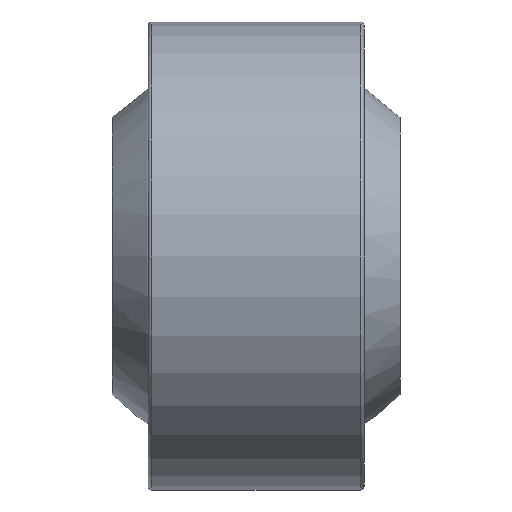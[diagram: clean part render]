
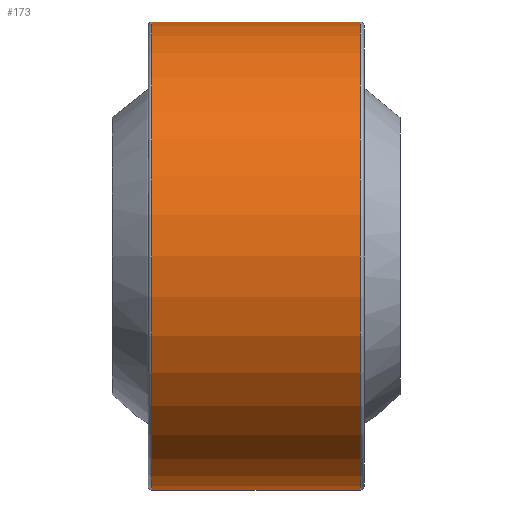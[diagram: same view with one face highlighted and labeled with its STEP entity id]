
A CAD part, front view. The second image highlights one B-rep face of the part: STEP entity #173.
In plain terms, the highlighted cylindrical face has radius 13 mm (diameter 26 mm), a full revolution.
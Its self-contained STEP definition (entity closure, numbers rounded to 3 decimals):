
#173 = ADVANCED_FACE( '', ( #195, #196, #197 ), #198, .T. );
#195 = FACE_OUTER_BOUND( '', #231, .T. );
#196 = FACE_BOUND( '', #232, .T. );
#197 = FACE_OUTER_BOUND( '', #233, .T. );
#198 = CYLINDRICAL_SURFACE( '', #234, 13. );
#231 = EDGE_LOOP( '', ( #274 ) );
#232 = EDGE_LOOP( '', ( #275 ) );
#233 = EDGE_LOOP( '', ( #276 ) );
#234 = AXIS2_PLACEMENT_3D( '', #277, #278, #279 );
#274 = ORIENTED_EDGE( '', *, *, #316, .T. );
#275 = ORIENTED_EDGE( '', *, *, #317, .T. );
#276 = ORIENTED_EDGE( '', *, *, #314, .F. );
#277 = CARTESIAN_POINT( '', ( 6., 0., 0. ) );
#278 = DIRECTION( '', ( -1., 0., 0. ) );
#279 = DIRECTION( '', ( 0., 0., -1. ) );
#314 = EDGE_CURVE( '', #330, #330, #331, .T. );
#316 = EDGE_CURVE( '', #334, #334, #335, .T. );
#317 = EDGE_CURVE( '', #336, #336, #337, .T. );
#330 = VERTEX_POINT( '', #354 );
#331 = CIRCLE( '', #355, 13. );
#334 = VERTEX_POINT( '', #358 );
#335 = CIRCLE( '', #359, 13. );
#336 = VERTEX_POINT( '', #360 );
#337 = B_SPLINE_CURVE_WITH_KNOTS( '', 3, ( #361, #362, #363, #364, #365, #366, #367, #368, #369, #370, #371, #372, #373, #374, #375, #376, #377, #378, #379, #380, #381, #382, #383, #384, #385, #386, #387, #388, #389, #390, #391, #392 ), .UNSPECIFIED., .T., .F., ( 2, 2, 2, 2, 2, 2, 2, 2, 2, 2, 2, 2, 2, 2, 2, 2, 2, 2 ), ( -0.001, 0., 0., 0.001, 0.001, 0.001, 0.002, 0.002, 0.003, 0.003, 0.003, 0.004, 0.004, 0.004, 0.005, 0.005, 0.006, 0.006 ), .UNSPECIFIED. );
#354 = CARTESIAN_POINT( '', ( 5.8, 0., -13. ) );
#355 = AXIS2_PLACEMENT_3D( '', #413, #414, #415 );
#358 = CARTESIAN_POINT( '', ( -5.8, 0., -13. ) );
#359 = AXIS2_PLACEMENT_3D( '', #419, #420, #421 );
#360 = CARTESIAN_POINT( '', ( 0.95, 13., 0. ) );
#361 = CARTESIAN_POINT( '', ( 0.95, 13., -0.251 ) );
#362 = CARTESIAN_POINT( '', ( 0.95, 13., 0.126 ) );
#363 = CARTESIAN_POINT( '', ( 0.925, 12.998, 0.249 ) );
#364 = CARTESIAN_POINT( '', ( 0.83, 12.992, 0.479 ) );
#365 = CARTESIAN_POINT( '', ( 0.759, 12.987, 0.584 ) );
#366 = CARTESIAN_POINT( '', ( 0.584, 12.978, 0.759 ) );
#367 = CARTESIAN_POINT( '', ( 0.478, 12.974, 0.83 ) );
#368 = CARTESIAN_POINT( '', ( 0.25, 12.967, 0.925 ) );
#369 = CARTESIAN_POINT( '', ( 0.124, 12.965, 0.95 ) );
#370 = CARTESIAN_POINT( '', ( -0.123, 12.965, 0.95 ) );
#371 = CARTESIAN_POINT( '', ( -0.248, 12.967, 0.925 ) );
#372 = CARTESIAN_POINT( '', ( -0.478, 12.974, 0.83 ) );
#373 = CARTESIAN_POINT( '', ( -0.583, 12.978, 0.761 ) );
#374 = CARTESIAN_POINT( '', ( -0.76, 12.987, 0.583 ) );
#375 = CARTESIAN_POINT( '', ( -0.83, 12.992, 0.479 ) );
#376 = CARTESIAN_POINT( '', ( -0.925, 12.998, 0.249 ) );
#377 = CARTESIAN_POINT( '', ( -0.95, 13., 0.124 ) );
#378 = CARTESIAN_POINT( '', ( -0.95, 13., -0.124 ) );
#379 = CARTESIAN_POINT( '', ( -0.925, 12.998, -0.249 ) );
#380 = CARTESIAN_POINT( '', ( -0.831, 12.992, -0.477 ) );
#381 = CARTESIAN_POINT( '', ( -0.76, 12.987, -0.583 ) );
#382 = CARTESIAN_POINT( '', ( -0.585, 12.978, -0.759 ) );
#383 = CARTESIAN_POINT( '', ( -0.48, 12.974, -0.829 ) );
#384 = CARTESIAN_POINT( '', ( -0.25, 12.967, -0.925 ) );
#385 = CARTESIAN_POINT( '', ( -0.126, 12.965, -0.95 ) );
#386 = CARTESIAN_POINT( '', ( 0.124, 12.965, -0.95 ) );
#387 = CARTESIAN_POINT( '', ( 0.248, 12.967, -0.926 ) );
#388 = CARTESIAN_POINT( '', ( 0.478, 12.974, -0.83 ) );
#389 = CARTESIAN_POINT( '', ( 0.584, 12.978, -0.76 ) );
#390 = CARTESIAN_POINT( '', ( 0.847, 12.992, -0.497 ) );
#391 = CARTESIAN_POINT( '', ( 0.95, 13., -0.251 ) );
#392 = CARTESIAN_POINT( '', ( 0.95, 13., 0.126 ) );
#413 = CARTESIAN_POINT( '', ( 5.8, 0., 0. ) );
#414 = DIRECTION( '', ( 1., 0., 0. ) );
#415 = DIRECTION( '', ( 0., 0., -1. ) );
#419 = CARTESIAN_POINT( '', ( -5.8, 0., 0. ) );
#420 = DIRECTION( '', ( 1., 0., 0. ) );
#421 = DIRECTION( '', ( 0., 0., -1. ) );
